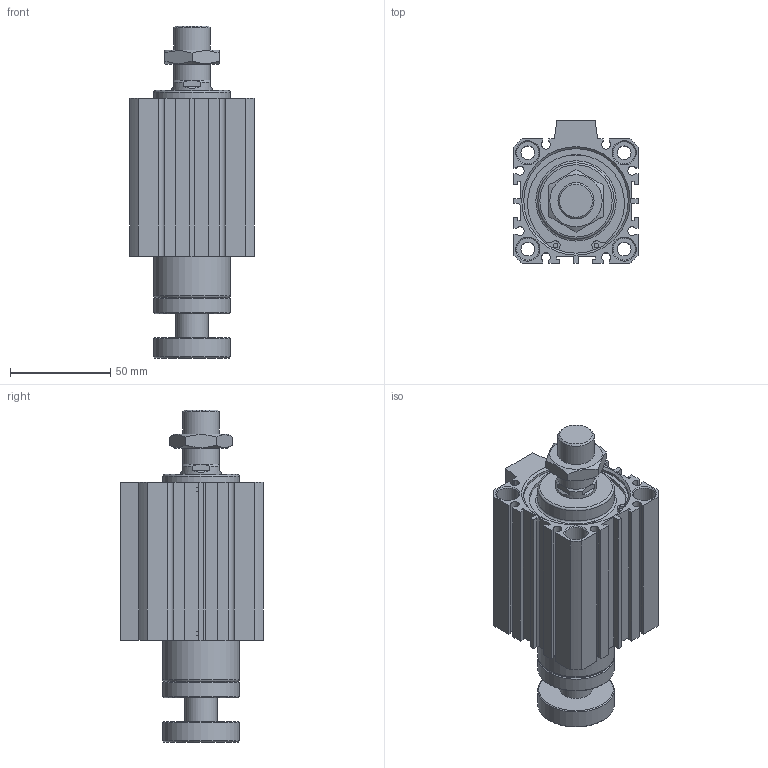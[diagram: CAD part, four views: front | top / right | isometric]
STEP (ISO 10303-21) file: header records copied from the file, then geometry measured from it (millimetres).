
FILE_DESCRIPTION((''),'2;1');
FILE_NAME('I:\3D電子目錄\氣缸\JDAR\JDAR-B\JDAR50-B\JDAR50x50-B.stp','2007-03-22T16:41:39',('662F206'),(''),'Autodesk Inventor 11','Autodesk Inventor 11','');
FILE_SCHEMA(('AUTOMOTIVE_DESIGN { 1 0 10303 214 1 1 1 1 }'));
Length unit declared in the file: millimetre
Products named in the file (3): JDAR50-B; R 形環 52
Assembly tree (3 placements, depth 2):
  JDAR50-B
    JDAR50-B
    R 形環 52  x2
Bounding box: 62 x 71 x 165.3 mm (x, y, z)
Volume: 326164.7 mm3; surface area: 63396.7 mm2
Topology: 3 solids, 3 shells, 204 faces, 493 edges, 321 vertices
Faces by surface type: plane 119, cylinder 56, cone 25, bspline 2, torus 2
Full cylindrical faces by diameter (mm): 2.3 x4, 2.7 x2, 6.8 x4, 11 x8, 16 x1, 18 x2, 20 x1, 38 x4, 52 x4, 55 x2
Entity records: 5422 total; most frequent: CARTESIAN_POINT 1023, DIRECTION 907, ORIENTED_EDGE 804, EDGE_CURVE 402, AXIS2_PLACEMENT_3D 329, VERTEX_POINT 295, EDGE_LOOP 285, VECTOR 249
